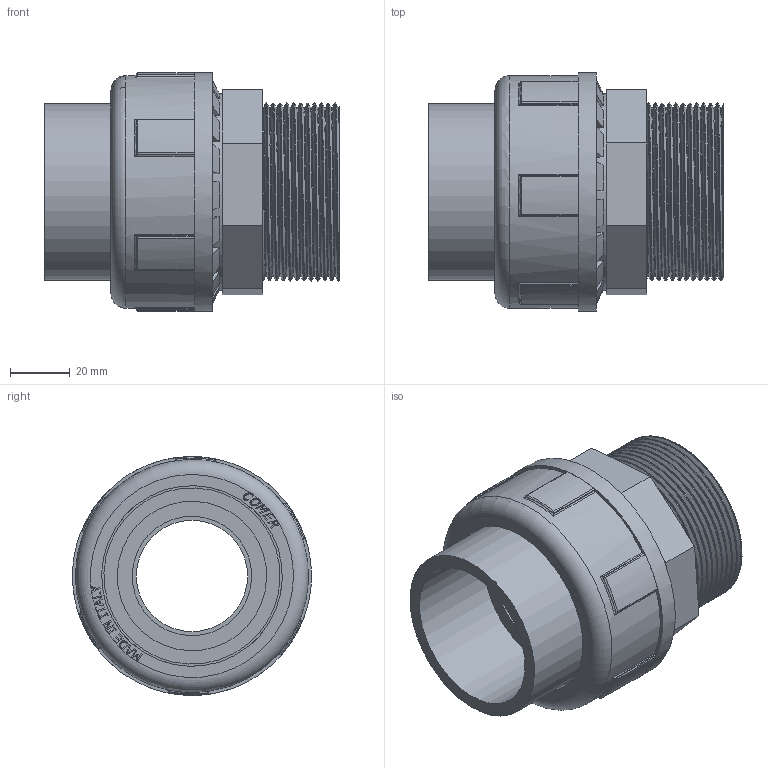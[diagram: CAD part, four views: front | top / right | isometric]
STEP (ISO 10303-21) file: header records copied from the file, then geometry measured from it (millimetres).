
FILE_DESCRIPTION(/* description */ (''),/* implementation_level */ '2;1');
FILE_NAME(/* name */ 'C:\Users\e.sacchi\Desktop\US82\US82050G\US82050G.stp',/* time_stamp */ '2018-06-28T11:21:38+02:00',/* author */ ('e.sacchi'),/* organization */ (''),/* preprocessor_version */ 'ST-DEVELOPER v16.13',/* originating_system */ 'Autodesk Inventor 2018',/* authorisation */ '');
FILE_SCHEMA (('AUTOMOTIVE_DESIGN { 1 0 10303 214 3 1 1 }'));
Length unit declared in the file: millimetre
Products named in the file (5): UN72050F; UB800500; LAV6187E; UE830500; NU800500
Assembly tree (4 placements, depth 2):
  UN72050F
    UB800500
    LAV6187E
    UE830500
    NU800500
Bounding box: 98.7 x 79.98 x 79.98 mm (x, y, z)
Volume: 209813.8 mm3; surface area: 106540.2 mm2
Topology: 8 solids, 8 shells, 445 faces, 1168 edges, 752 vertices
Faces by surface type: plane 275, bspline 63, cylinder 54, cone 39, torus 14
Full cylindrical faces by diameter (mm): 37.29 x1, 39.29 x1, 40 x1, 46 x1, 50 x1, 56.596 x2, 57 x1, 59 x1, 60.5 x2, 62.5 x1, 62.696 x2, 64.71 x1, 65.71 x4, 78 x1, 80 x1
Entity records: 29600 total; most frequent: CARTESIAN_POINT 18857, ORIENTED_EDGE 2276, DIRECTION 1983, EDGE_CURVE 1137, VERTEX_POINT 746, LINE 721, VECTOR 721, AXIS2_PLACEMENT_3D 631
